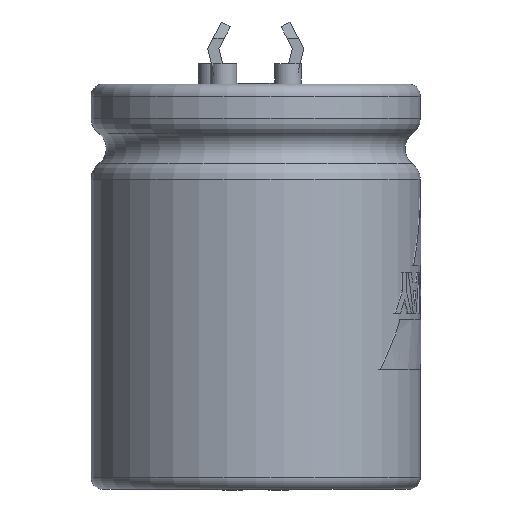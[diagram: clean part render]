
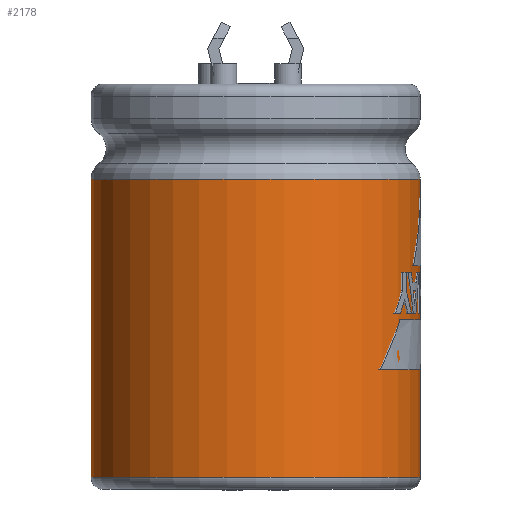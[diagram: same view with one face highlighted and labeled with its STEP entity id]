
A CAD part, left-side view. The second image highlights one B-rep face of the part: STEP entity #2178.
In plain terms, the highlighted cylindrical face has radius 13 mm (diameter 26 mm), a full revolution.
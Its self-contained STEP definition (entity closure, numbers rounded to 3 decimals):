
#2110 = TOROIDAL_SURFACE('',#2111,11.5,1.5);
#2111 = AXIS2_PLACEMENT_3D('',#2112,#2113,#2114);
#2112 = CARTESIAN_POINT('',(0.,0.,-6.55));
#2113 = DIRECTION('',(0.,0.,1.));
#2114 = DIRECTION('',(1.,0.,0.));
#2126 = EDGE_CURVE('',#2127,#2127,#2129,.T.);
#2127 = VERTEX_POINT('',#2128);
#2128 = CARTESIAN_POINT('',(13.,0.,-6.55));
#2129 = SURFACE_CURVE('',#2130,(#2135,#2142),.PCURVE_S1.);
#2130 = CIRCLE('',#2131,13.);
#2131 = AXIS2_PLACEMENT_3D('',#2132,#2133,#2134);
#2132 = CARTESIAN_POINT('',(0.,0.,-6.55));
#2133 = DIRECTION('',(0.,0.,1.));
#2134 = DIRECTION('',(1.,0.,0.));
#2135 = PCURVE('',#2110,#2136);
#2136 = DEFINITIONAL_REPRESENTATION('',(#2137),#2141);
#2137 = LINE('',#2138,#2139);
#2138 = CARTESIAN_POINT('',(0.,6.283));
#2139 = VECTOR('',#2140,1.);
#2140 = DIRECTION('',(1.,0.));
#2141 = ( GEOMETRIC_REPRESENTATION_CONTEXT(2) 
PARAMETRIC_REPRESENTATION_CONTEXT() REPRESENTATION_CONTEXT('2D SPACE',''
  ) );
#2142 = PCURVE('',#2143,#2148);
#2143 = CYLINDRICAL_SURFACE('',#2144,13.);
#2144 = AXIS2_PLACEMENT_3D('',#2145,#2146,#2147);
#2145 = CARTESIAN_POINT('',(0.,0.,-30.1));
#2146 = DIRECTION('',(0.,0.,1.));
#2147 = DIRECTION('',(1.,0.,0.));
#2148 = DEFINITIONAL_REPRESENTATION('',(#2149),#2153);
#2149 = LINE('',#2150,#2151);
#2150 = CARTESIAN_POINT('',(0.,23.55));
#2151 = VECTOR('',#2152,1.);
#2152 = DIRECTION('',(1.,0.));
#2153 = ( GEOMETRIC_REPRESENTATION_CONTEXT(2) 
PARAMETRIC_REPRESENTATION_CONTEXT() REPRESENTATION_CONTEXT('2D SPACE',''
  ) );
#2178 = ADVANCED_FACE('',(#2179),#2143,.T.);
#2179 = FACE_BOUND('',#2180,.T.);
#2180 = EDGE_LOOP('',(#2181,#2210,#2231,#2232));
#2181 = ORIENTED_EDGE('',*,*,#2182,.T.);
#2182 = EDGE_CURVE('',#2183,#2183,#2185,.T.);
#2183 = VERTEX_POINT('',#2184);
#2184 = CARTESIAN_POINT('',(13.,0.,-30.1));
#2185 = SURFACE_CURVE('',#2186,(#2191,#2198),.PCURVE_S1.);
#2186 = CIRCLE('',#2187,13.);
#2187 = AXIS2_PLACEMENT_3D('',#2188,#2189,#2190);
#2188 = CARTESIAN_POINT('',(0.,0.,-30.1));
#2189 = DIRECTION('',(0.,0.,1.));
#2190 = DIRECTION('',(1.,0.,0.));
#2191 = PCURVE('',#2143,#2192);
#2192 = DEFINITIONAL_REPRESENTATION('',(#2193),#2197);
#2193 = LINE('',#2194,#2195);
#2194 = CARTESIAN_POINT('',(0.,0.));
#2195 = VECTOR('',#2196,1.);
#2196 = DIRECTION('',(1.,0.));
#2197 = ( GEOMETRIC_REPRESENTATION_CONTEXT(2) 
PARAMETRIC_REPRESENTATION_CONTEXT() REPRESENTATION_CONTEXT('2D SPACE',''
  ) );
#2198 = PCURVE('',#2199,#2204);
#2199 = TOROIDAL_SURFACE('',#2200,12.05,0.95);
#2200 = AXIS2_PLACEMENT_3D('',#2201,#2202,#2203);
#2201 = CARTESIAN_POINT('',(0.,0.,-30.1));
#2202 = DIRECTION('',(0.,0.,1.));
#2203 = DIRECTION('',(1.,0.,0.));
#2204 = DEFINITIONAL_REPRESENTATION('',(#2205),#2209);
#2205 = LINE('',#2206,#2207);
#2206 = CARTESIAN_POINT('',(0.,6.283));
#2207 = VECTOR('',#2208,1.);
#2208 = DIRECTION('',(1.,0.));
#2209 = ( GEOMETRIC_REPRESENTATION_CONTEXT(2) 
PARAMETRIC_REPRESENTATION_CONTEXT() REPRESENTATION_CONTEXT('2D SPACE',''
  ) );
#2210 = ORIENTED_EDGE('',*,*,#2211,.T.);
#2211 = EDGE_CURVE('',#2183,#2127,#2212,.T.);
#2212 = SEAM_CURVE('',#2213,(#2217,#2224),.PCURVE_S1.);
#2213 = LINE('',#2214,#2215);
#2214 = CARTESIAN_POINT('',(13.,0.,-30.1));
#2215 = VECTOR('',#2216,1.);
#2216 = DIRECTION('',(0.,0.,1.));
#2217 = PCURVE('',#2143,#2218);
#2218 = DEFINITIONAL_REPRESENTATION('',(#2219),#2223);
#2219 = LINE('',#2220,#2221);
#2220 = CARTESIAN_POINT('',(0.,0.));
#2221 = VECTOR('',#2222,1.);
#2222 = DIRECTION('',(0.,1.));
#2223 = ( GEOMETRIC_REPRESENTATION_CONTEXT(2) 
PARAMETRIC_REPRESENTATION_CONTEXT() REPRESENTATION_CONTEXT('2D SPACE',''
  ) );
#2224 = PCURVE('',#2143,#2225);
#2225 = DEFINITIONAL_REPRESENTATION('',(#2226),#2230);
#2226 = LINE('',#2227,#2228);
#2227 = CARTESIAN_POINT('',(6.283,0.));
#2228 = VECTOR('',#2229,1.);
#2229 = DIRECTION('',(0.,1.));
#2230 = ( GEOMETRIC_REPRESENTATION_CONTEXT(2) 
PARAMETRIC_REPRESENTATION_CONTEXT() REPRESENTATION_CONTEXT('2D SPACE',''
  ) );
#2231 = ORIENTED_EDGE('',*,*,#2126,.F.);
#2232 = ORIENTED_EDGE('',*,*,#2211,.F.);
